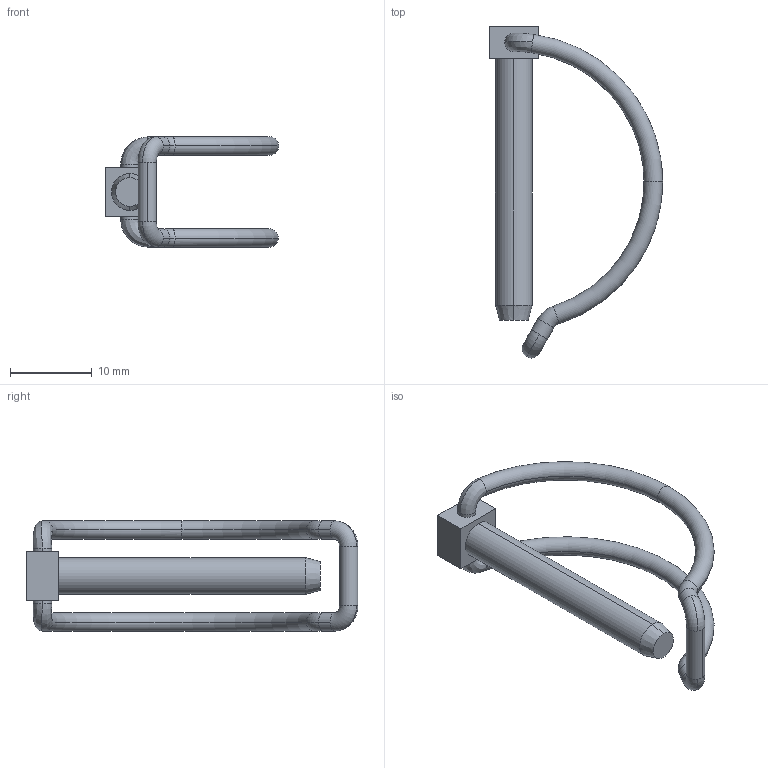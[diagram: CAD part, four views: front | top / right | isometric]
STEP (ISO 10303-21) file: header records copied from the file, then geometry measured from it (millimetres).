
FILE_DESCRIPTION (( 'STEP AP203' ), '1' );
FILE_NAME ('33320.W0041.step', '2025-02-04T13:39:52', ( '' ), ( '' ), 'SwSTEP 2.0', 'SolidWorks 2019', '' );
FILE_SCHEMA (( 'CONFIG_CONTROL_DESIGN' ));
Length unit declared in the file: millimetre
Products named in the file (3): Part5_33320.W0041; 33320.W0041; part1_33320.W0041
Assembly tree (2 placements, depth 2):
  33320.W0041
    part1_33320.W0041
    Part5_33320.W0041
Bounding box: 21.19 x 40.58 x 13.5 mm (x, y, z)
Volume: 1115.2 mm3; surface area: 1529.5 mm2
Topology: 2 solids, 2 shells, 43 faces, 98 edges, 60 vertices
Faces by surface type: cylinder 14, torus 14, plane 9, bspline 4, cone 2
Entity records: 1827 total; most frequent: CARTESIAN_POINT 518, DIRECTION 248, ORIENTED_EDGE 196, AXIS2_PLACEMENT_3D 110, EDGE_CURVE 98, CIRCLE 66, VERTEX_POINT 60, EDGE_LOOP 46
